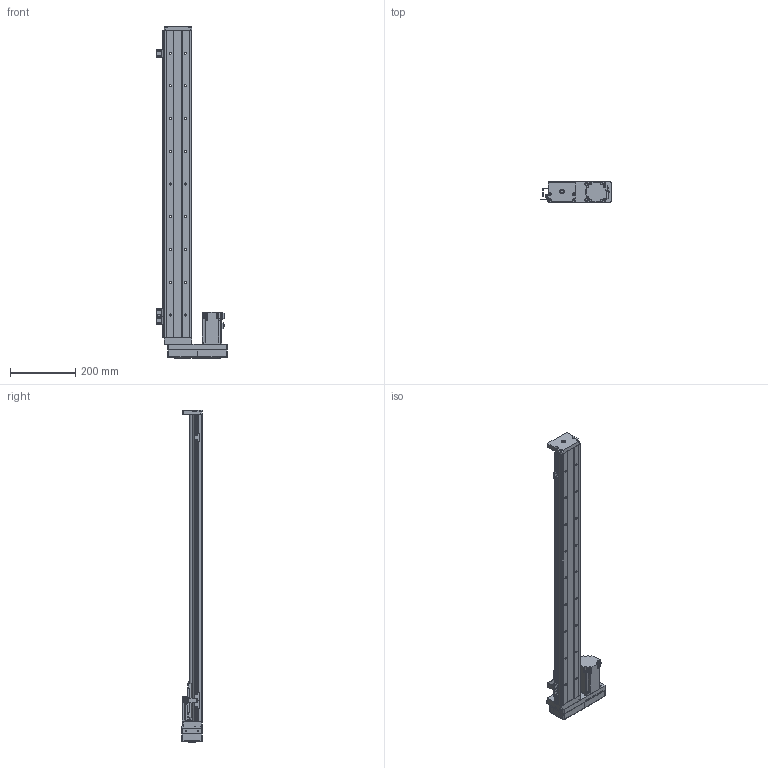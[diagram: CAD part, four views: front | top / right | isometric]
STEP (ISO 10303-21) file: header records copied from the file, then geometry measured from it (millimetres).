
FILE_DESCRIPTION (( 'STEP AP203' ), '1' );
FILE_NAME ('KH8610C-940A1-H0R-Z1.STEP', '2022-04-20T11:58:37', ( 'CXY' ), ( 'BT' ), 'SwSTEP 2.0', 'SolidWorks 2016', '' );
FILE_SCHEMA (( 'CONFIG_CONTROL_DESIGN' ));
Length unit declared in the file: millimetre
Products named in the file (22): 内六角圆柱头螺钉M3×25; KK86-06-02（M12X1.0）; KH86-A1; KH86-憤癹寢耋; 皮带; KH86-02-BL00; KH8610C-940A1-H0R-Z1; KH86-03-02; FS-34-T40; 鞠褒蹟譫M3; CTH12萇儂滅誘欶; KK86-04-07G; 内六角圆柱头螺钉M4×10; 怢湛400W侜督萇儂; 囀鞠褒す埴芛蹟隊M3℅4; 86賑輸; KK60-08-01; KH86-綴釱_KK86-05-01; KH86-01-940; KH86-H0; 内六角圆柱头螺钉M4×20; KH86-BL-06-T40(蜊)
Assembly tree (39 placements, depth 3):
  KH8610C-940A1-H0R-Z1
    KH86-01-940
    KH86-A1
      86賑輸
    KH86-綴釱_KK86-05-01
    KK60-08-01  x3
    KK86-06-02（M12X1.0）
    KH86-02-BL00
      KH86-H0
      内六角圆柱头螺钉M4×20  x4
      KH86-03-02
      内六角圆柱头螺钉M4×10  x4
      KH86-BL-06-T40(蜊)
      CTH12萇儂滅誘欶
      FS-34-T40
      怢湛400W侜督萇儂
      内六角圆柱头螺钉M3×25  x4
      皮带
    KH86-憤癹寢耋
    囀鞠褒す埴芛蹟隊M3℅4  x6
    鞠褒蹟譫M3  x3
    KK86-04-07G
Bounding box: 216.15 x 64 x 1014.5 mm (x, y, z)
Volume: 2310081.5 mm3; surface area: 535414.5 mm2
Topology: 38 solids, 38 shells, 1887 faces, 4799 edges, 3049 vertices
Faces by surface type: plane 791, cylinder 650, cone 256, bspline 114, torus 60, sphere 16
Entity records: 54486 total; most frequent: CARTESIAN_POINT 15770, ORIENTED_EDGE 7548, DIRECTION 7350, EDGE_CURVE 3774, AXIS2_PLACEMENT_3D 2626, VERTEX_POINT 2466, VECTOR 2098, LINE 2098
